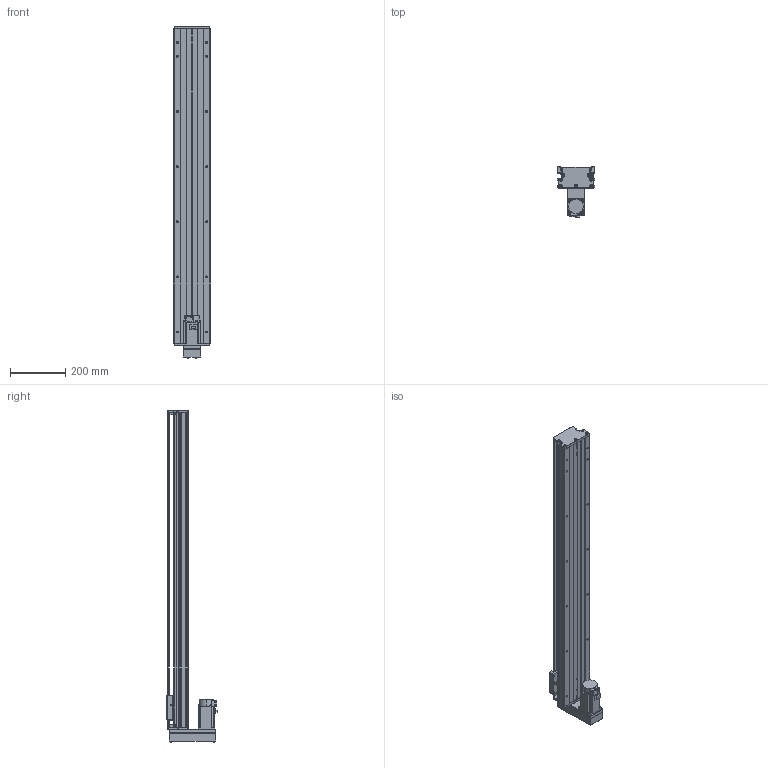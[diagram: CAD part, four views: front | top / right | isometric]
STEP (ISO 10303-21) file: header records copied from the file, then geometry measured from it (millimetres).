
FILE_DESCRIPTION (( 'STEP AP203' ), '1' );
FILE_NAME ('KTH130-1000-BM-M40-C4.step', '2023-06-30T04:03:09', ( '微软用户' ), ( '微软中国' ), 'SwSTEP 2.0', 'SolidWorks 2020', '' );
FILE_SCHEMA (( 'CONFIG_CONTROL_DESIGN' ));
Length unit declared in the file: millimetre
Products named in the file (19): KTH130-004; CTHA60-016; GTH14-015-2_CTHA86-015-2; KTH130-005; GBT 70.1-M3℅5; GTH14-033; GB1155-6X6; GBT77-2000 M3×3; KTH130-1000-BM-M40-C4; GBT70.1 M5℅16; す晦芛蹟隊 M3℅5; GBT 70.2-M3¡Á5_M3¡Á6; GBT 70.3-M3℅8; GTH14-001_1000; CTHA60-017; HG-KN43J-S100; KTH130-002_KTH130-002; EE_SX911P_R; GBT 70.2-M4¡Á35_M4¡Á35
Assembly tree (53 placements, depth 2):
  KTH130-1000-BM-M40-C4
    GTH14-001_1000
    KTH130-002_KTH130-002
    KTH130-004
    KTH130-005
    GB1155-6X6  x2
    GBT70.1 M5℅16  x10
    GBT 70.2-M3¡Á5_M3¡Á6  x4
    CTHA60-017  x3
    EE_SX911P_R  x3
    CTHA60-016  x2
    GBT 70.1-M3℅5  x6
    GBT77-2000 M3×3  x6
    す晦芛蹟隊 M3℅5  x2
    GBT 70.3-M3℅8  x4
    HG-KN43J-S100
    GBT 70.2-M4¡Á35_M4¡Á35  x4
    GTH14-015-2_CTHA86-015-2
    GTH14-033
Bounding box: 135 x 181.8 x 1204.2 mm (x, y, z)
Volume: 6687037 mm3; surface area: 1056669.8 mm2
Topology: 56 solids, 56 shells, 2243 faces, 5414 edges, 3374 vertices
Faces by surface type: plane 1201, cylinder 628, cone 290, torus 100, sphere 24
Entity records: 41174 total; most frequent: CARTESIAN_POINT 8734, DIRECTION 6159, ORIENTED_EDGE 6028, EDGE_CURVE 3014, AXIS2_PLACEMENT_3D 2130, VERTEX_POINT 1927, LINE 1899, VECTOR 1899
